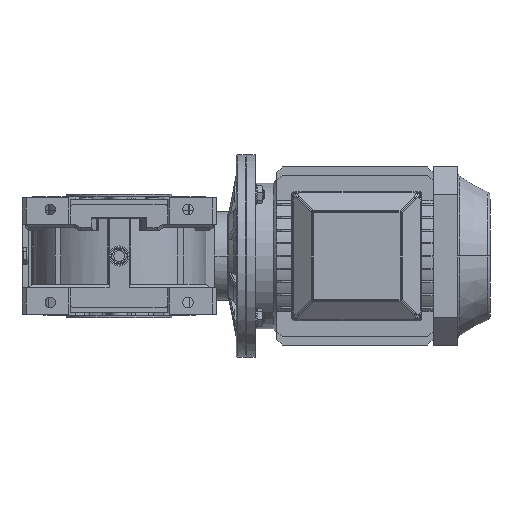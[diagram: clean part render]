
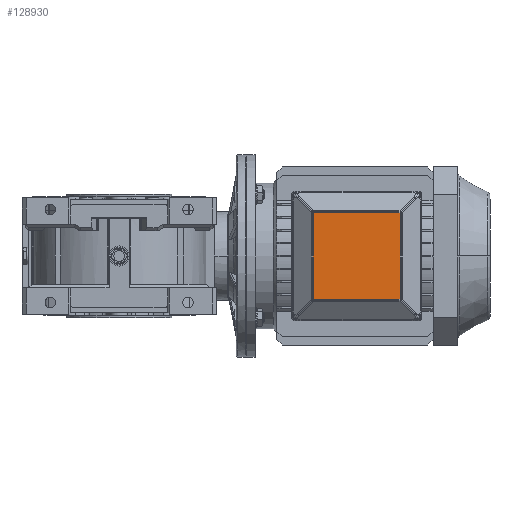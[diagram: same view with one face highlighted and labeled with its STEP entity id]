
A CAD part, front view. The second image highlights one B-rep face of the part: STEP entity #128930.
In plain terms, the highlighted planar face has unit normal (0, -1, 0) as drawn and (0, 0, 1) by its records, which use the part's own axes.
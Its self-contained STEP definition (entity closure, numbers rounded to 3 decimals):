
#128049=CARTESIAN_POINT('',(142.653,-53.597,146.0));
#128050=VERTEX_POINT('',#128049);
#128091=CARTESIAN_POINT('',(249.847,-53.597,146.0));
#128092=VERTEX_POINT('',#128091);
#128117=CARTESIAN_POINT('',(142.653,53.597,146.0));
#128118=VERTEX_POINT('',#128117);
#128159=CARTESIAN_POINT('',(249.847,53.597,146.0));
#128160=VERTEX_POINT('',#128159);
#128186=CARTESIAN_POINT('',(142.653,53.597,146.0));
#128187=DIRECTION('',(1.0,0.0,0.0));
#128188=VECTOR('',#128187,107.194);
#128189=LINE('',#128186,#128188);
#128190=EDGE_CURVE('',#128118,#128160,#128189,.T.);
#128224=CARTESIAN_POINT('',(249.847,53.597,146.0));
#128225=DIRECTION('',(0.0,-1.0,0.0));
#128226=VECTOR('',#128225,107.194);
#128227=LINE('',#128224,#128226);
#128228=EDGE_CURVE('',#128160,#128092,#128227,.T.);
#128241=CARTESIAN_POINT('',(142.653,-53.597,146.0));
#128242=DIRECTION('',(0.0,1.0,0.0));
#128243=VECTOR('',#128242,107.194);
#128244=LINE('',#128241,#128243);
#128245=EDGE_CURVE('',#128050,#128118,#128244,.T.);
#128354=CARTESIAN_POINT('',(249.847,-53.597,146.0));
#128355=DIRECTION('',(-1.0,0.0,0.0));
#128356=VECTOR('',#128355,107.194);
#128357=LINE('',#128354,#128356);
#128358=EDGE_CURVE('',#128092,#128050,#128357,.T.);
#128919=CARTESIAN_POINT('',(196.25,0.,146.0));
#128920=DIRECTION('',(0.0,0.0,1.0));
#128921=DIRECTION('',(1.0,0.0,0.0));
#128922=AXIS2_PLACEMENT_3D('',#128919,#128920,#128921);
#128923=PLANE('',#128922);
#128924=ORIENTED_EDGE('',*,*,#128190,.F.);
#128925=ORIENTED_EDGE('',*,*,#128245,.F.);
#128926=ORIENTED_EDGE('',*,*,#128358,.F.);
#128927=ORIENTED_EDGE('',*,*,#128228,.F.);
#128928=EDGE_LOOP('',(#128924,#128925,#128926,#128927));
#128929=FACE_OUTER_BOUND('',#128928,.T.);
#128930=ADVANCED_FACE('',(#128929),#128923,.T.);
